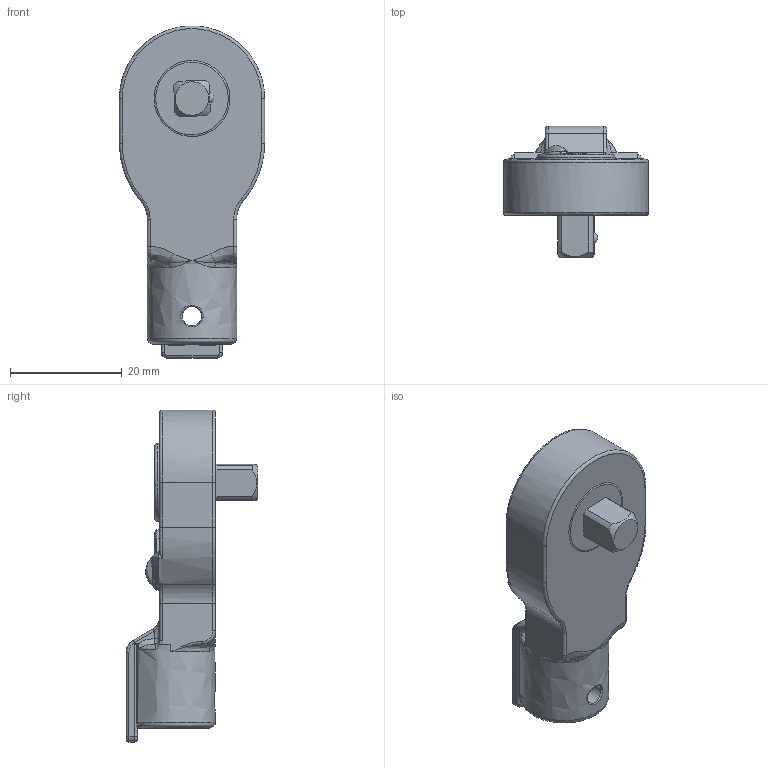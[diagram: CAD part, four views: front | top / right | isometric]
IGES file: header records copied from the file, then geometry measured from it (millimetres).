
Global section: file name: QH10D-1／4,2; native system: 2HAutodesk Inventor 2016; preprocessor: unknown; author: Q600; date: 20151016.131300; units: millimetre
Bounding box: 26 x 23.6 x 59.49 mm (x, y, z)
Volume: 11651.5 mm3; surface area: 4512.3 mm2
Topology: 1 solids, 1 shells, 187 faces, 456 edges, 254 vertices
Faces by surface type: bspline 187
